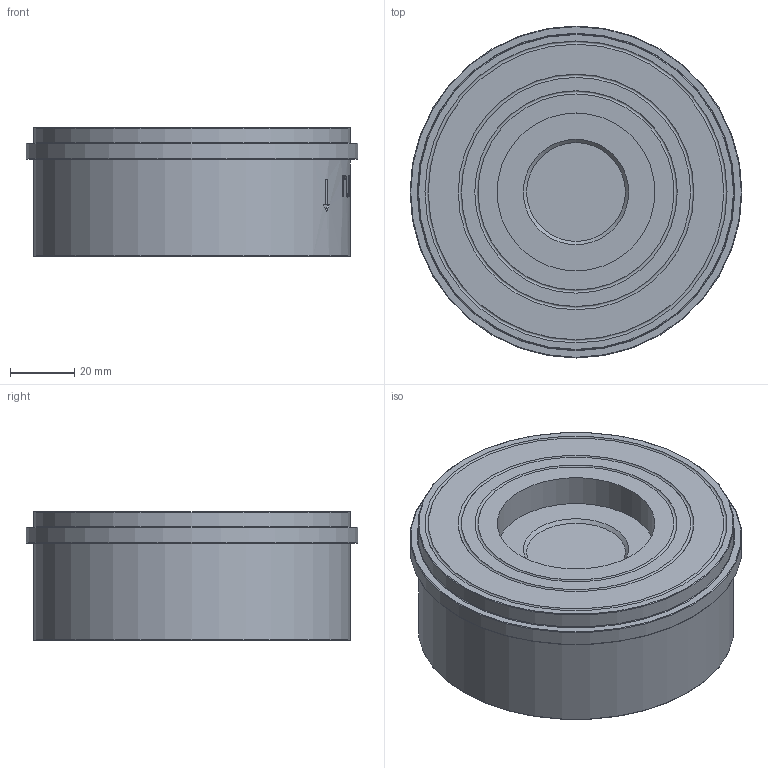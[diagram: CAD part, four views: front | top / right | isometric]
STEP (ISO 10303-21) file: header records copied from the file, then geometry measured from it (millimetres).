
FILE_DESCRIPTION(('STEP AP214'), '1');
FILE_NAME('VCS3232-Fb 孰囡囗 钺疣蝽 DN.ru 捏50 畜40', '', ('UNSPECIFIED'), ('UNSPECIFIED'), 'C3D Converter', 'C3D Toolkit', '');
FILE_SCHEMA(('AUTOMOTIVE_DESIGN { 1 0 10303 214 3 1 1}'));
Length unit declared in the file: millimetre
Products named in the file (1): VCS3232-Fb
Bounding box: 103 x 103 x 40 mm (x, y, z)
Volume: 143023.5 mm3; surface area: 62533.4 mm2
Topology: 2 solids, 2 shells, 143 faces, 347 edges, 227 vertices
Faces by surface type: plane 70, cylinder 30, extrusion 30, torus 11, bspline 1, cone 1
Full cylindrical faces by diameter (mm): 16.333 x1, 16.533 x1, 49 x1, 58.8 x1, 60.38 x1, 68.6 x1, 76 x1, 79.98 x1, 80 x1, 88.3 x1, 98.1 x2, 103 x1
Entity records: 9046 total; most frequent: CARTESIAN_POINT 5051, ORIENTED_EDGE 642, DIRECTION 605, EDGE_CURVE 321, VERTEX_POINT 227, AXIS2_PLACEMENT_3D 224, EDGE_LOOP 198, VECTOR 157
